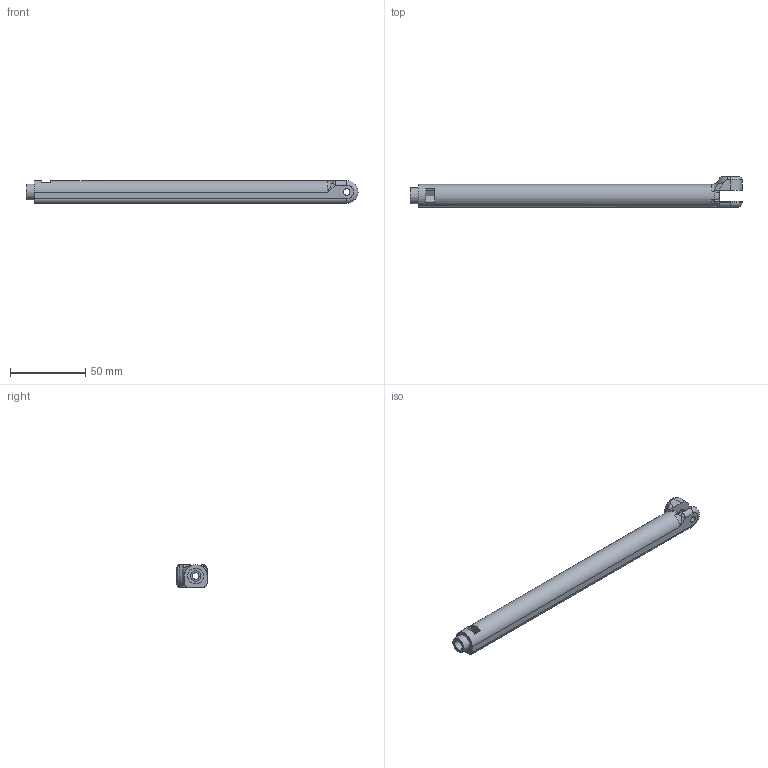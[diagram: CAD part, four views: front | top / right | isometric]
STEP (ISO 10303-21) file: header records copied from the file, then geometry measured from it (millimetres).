
FILE_DESCRIPTION(/* description */ ('STEP AP242 Edition 2','CAx-IF Rec.Pracs.---Representation and Presentation of Product Manufacturing Information (PMI)---4.0---2014-10-13','CAx-IF Rec.Pracs.---3D Tessellated Geometry---0.4---2014-09-14','2;1','CAx-IF Rec.Pracs.---User Defined Attributes---1.5---2016-08-15'),/* implementation_level */ '2;1');
FILE_NAME(/* name */ 'Assembly 1 - Arm',/* time_stamp */ '2026-06-23T19:13:02Z',/* author */ (''),/* organization */ (''),/* preprocessor_version */ 'ST-DEVELOPER v20',/* originating_system */ 'ONSHAPE BY PTC INC, 1.216',/* authorisation */ ' ');
FILE_SCHEMA (('AP242_MANAGED_MODEL_BASED_3D_ENGINEERING_MIM_LF { 1 0 10303 442 3 1 4 }'));
Length unit declared in the file: metre
Products named in the file (1): Arm
Bounding box: 220 x 20 x 15 mm (x, y, z)
Volume: 38349.7 mm3; surface area: 14987.4 mm2
Topology: 1 solids, 1 shells, 59 faces, 149 edges, 94 vertices
Faces by surface type: plane 25, cylinder 19, torus 9, bspline 5, sphere 1
Full cylindrical faces by diameter (mm): 4.3 x4, 6.9 x1, 10.6 x1
Entity records: 1855 total; most frequent: CARTESIAN_POINT 464, ORIENTED_EDGE 280, DIRECTION 276, EDGE_CURVE 140, AXIS2_PLACEMENT_3D 107, VERTEX_POINT 93, EDGE_LOOP 77, FACE_BOUND 77
